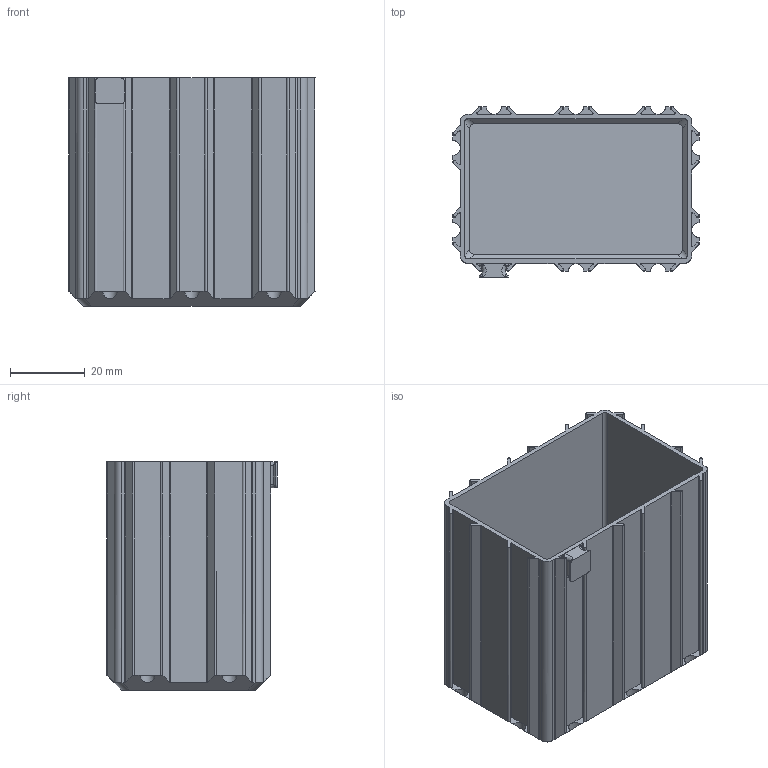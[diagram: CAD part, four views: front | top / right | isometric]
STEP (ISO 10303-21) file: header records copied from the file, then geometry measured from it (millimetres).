
FILE_DESCRIPTION(/* description */ (''),/* implementation_level */ '2;1');
FILE_NAME(/* name */ 'BOX_x03_y02_z060_tx0_ty0.stp',/* time_stamp */ '2024-02-16T08:36:56+01:00',/* author */ ('ott'),/* organization */ (''),/* preprocessor_version */ 'ST-DEVELOPER v19.2',/* originating_system */ 'Autodesk Inventor 2023',/* authorisation */ '');
FILE_SCHEMA (('AUTOMOTIVE_DESIGN { 1 0 10303 214 3 1 1 }'));
Length unit declared in the file: millimetre
Products named in the file (1): BOX_x03_y02_z060_tx0_ty0
Bounding box: 66 x 45.8 x 61.2 mm (x, y, z)
Volume: 19655.6 mm3; surface area: 33596.8 mm2
Topology: 2 solids, 2 shells, 207 faces, 582 edges, 380 vertices
Faces by surface type: plane 111, cylinder 92, torus 4
Entity records: 7056 total; most frequent: CARTESIAN_POINT 1266, DIRECTION 1204, ORIENTED_EDGE 1164, EDGE_CURVE 582, AXIS2_PLACEMENT_3D 422, VERTEX_POINT 380, LINE 360, VECTOR 360
